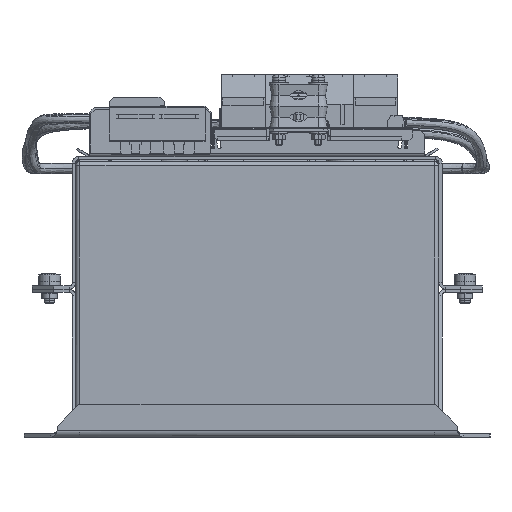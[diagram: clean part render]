
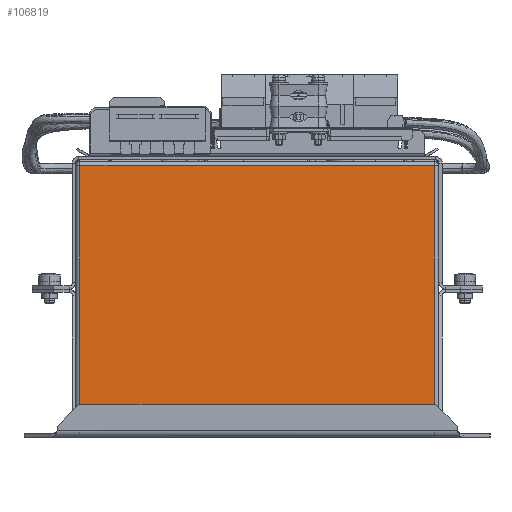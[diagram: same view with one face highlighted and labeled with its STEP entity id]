
A CAD part, left-side view. The second image highlights one B-rep face of the part: STEP entity #106819.
In plain terms, the highlighted planar face has unit normal (-1, 0, 0) as drawn and (1, 0, 0) by its records, which use the part's own axes.
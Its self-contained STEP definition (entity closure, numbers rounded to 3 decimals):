
#105150=DIRECTION('',(0.,0.,-1.));
#105151=VECTOR('',#105150,122.);
#105152=CARTESIAN_POINT('',(88.,81.5,124.));
#105153=LINE('',#105152,#105151);
#105226=DIRECTION('',(0.,1.,0.));
#105227=VECTOR('',#105226,163.);
#105228=CARTESIAN_POINT('',(88.,-81.5,124.));
#105229=LINE('',#105228,#105227);
#105265=DIRECTION('',(0.,0.,1.));
#105266=VECTOR('',#105265,122.);
#105267=CARTESIAN_POINT('',(88.,-81.5,2.));
#105268=LINE('',#105267,#105266);
#105279=DIRECTION('',(0.,-1.,0.));
#105280=VECTOR('',#105279,163.);
#105281=CARTESIAN_POINT('',(88.,81.5,2.));
#105282=LINE('',#105281,#105280);
#106302=CARTESIAN_POINT('',(88.,-81.5,2.));
#106304=VERTEX_POINT('',#106302);
#106322=CARTESIAN_POINT('',(88.,81.5,2.));
#106324=VERTEX_POINT('',#106322);
#106326=CARTESIAN_POINT('',(88.,-81.5,124.));
#106328=VERTEX_POINT('',#106326);
#106338=CARTESIAN_POINT('',(88.,81.5,124.));
#106340=VERTEX_POINT('',#106338);
#106807=CARTESIAN_POINT('',(88.,83.5,0.));
#106808=DIRECTION('',(1.,0.,0.));
#106809=DIRECTION('',(0.,0.,-1.));
#106810=AXIS2_PLACEMENT_3D('',#106807,#106808,#106809);
#106811=PLANE('',#106810);
#106812=ORIENTED_EDGE('',*,*,#106769,.T.);
#106813=ORIENTED_EDGE('',*,*,#106696,.T.);
#106815=ORIENTED_EDGE('',*,*,#106814,.T.);
#106816=ORIENTED_EDGE('',*,*,#106796,.T.);
#106817=EDGE_LOOP('',(#106812,#106813,#106815,#106816));
#106818=FACE_OUTER_BOUND('',#106817,.F.);
#106819=ADVANCED_FACE('',(#106818),#106811,.T.);
#106696=EDGE_CURVE('',#106340,#106324,#105153,.T.);
#106769=EDGE_CURVE('',#106328,#106340,#105229,.T.);
#106796=EDGE_CURVE('',#106304,#106328,#105268,.T.);
#106814=EDGE_CURVE('',#106324,#106304,#105282,.T.);
